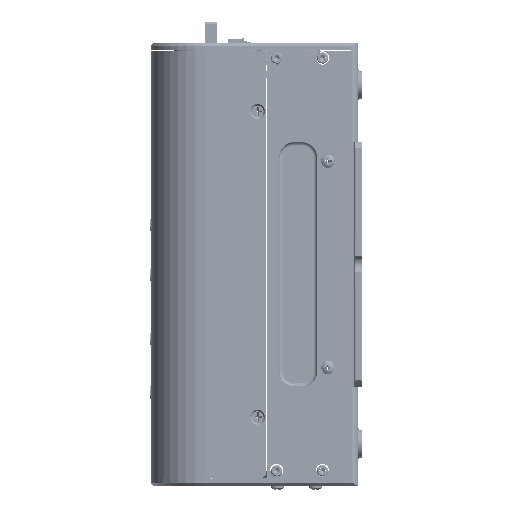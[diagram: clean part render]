
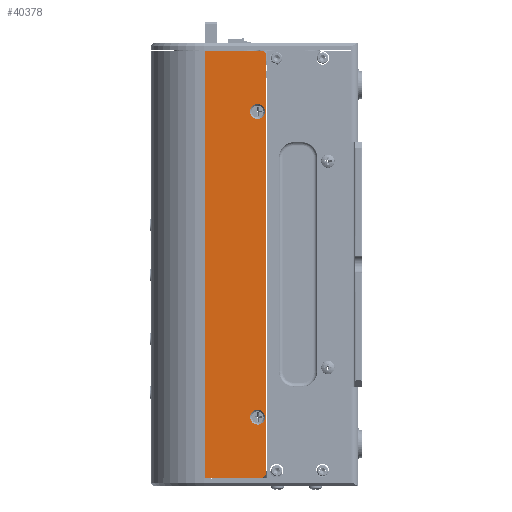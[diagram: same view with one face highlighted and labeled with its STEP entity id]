
A CAD part, left-side view. The second image highlights one B-rep face of the part: STEP entity #40378.
In plain terms, the highlighted planar face has unit normal (-1, 0, 0).
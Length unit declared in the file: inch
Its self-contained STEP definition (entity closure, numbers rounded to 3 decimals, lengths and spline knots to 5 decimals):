
#12307 = PLANE ( 'NONE',  #30489 ) ;
#12450 = DIRECTION ( 'NONE',  ( 0., 1., 0. ) ) ;
#12472 = DIRECTION ( 'NONE',  ( 1., 0., 0. ) ) ;
#12477 = CARTESIAN_POINT ( 'NONE',  ( -0.50197, 1.74975, -0.52091 ) ) ;
#30489 = AXIS2_PLACEMENT_3D ( 'NONE', #12477, #12472, #12450 ) ;
#40378 = ADVANCED_FACE ( 'NONE', ( #107128, #107139, #107131 ), #12307, .F. ) ;
#51132 = CIRCLE ( 'NONE', #207295, 0.12119 ) ;
#51230 = CIRCLE ( 'NONE', #207273, 0.12119 ) ;
#51333 = CIRCLE ( 'NONE', #207271, 0.12119 ) ;
#51415 = LINE ( 'NONE', #81190, #51419 ) ;
#51419 = VECTOR ( 'NONE', #81204, 39.37008 ) ;
#51496 = CIRCLE ( 'NONE', #207210, 0.12119 ) ;
#51513 = LINE ( 'NONE', #81620, #51542 ) ;
#51533 = LINE ( 'NONE', #81603, #51536 ) ;
#51536 = VECTOR ( 'NONE', #81615, 39.37008 ) ;
#51542 = VECTOR ( 'NONE', #81627, 39.37008 ) ;
#51566 = LINE ( 'NONE', #81675, #51569 ) ;
#51569 = VECTOR ( 'NONE', #81700, 39.37008 ) ;
#51576 = LINE ( 'NONE', #81679, #51579 ) ;
#51579 = VECTOR ( 'NONE', #81704, 39.37008 ) ;
#55905 = EDGE_CURVE ( 'NONE', #252614, #252604, #51132, .T. ) ;
#55968 = EDGE_CURVE ( 'NONE', #252892, #252896, #51230, .T. ) ;
#56013 = EDGE_CURVE ( 'NONE', #252896, #252892, #51333, .T. ) ;
#56066 = EDGE_CURVE ( 'NONE', #219318, #219327, #51415, .T. ) ;
#56156 = EDGE_CURVE ( 'NONE', #252604, #252614, #51496, .T. ) ;
#56164 = EDGE_CURVE ( 'NONE', #252833, #219318, #51533, .T. ) ;
#56168 = EDGE_CURVE ( 'NONE', #252841, #251092, #51513, .T. ) ;
#56195 = EDGE_CURVE ( 'NONE', #252833, #251092, #51566, .T. ) ;
#56201 = EDGE_CURVE ( 'NONE', #219327, #219322, #51576, .T. ) ;
#70827 = CARTESIAN_POINT ( 'NONE',  ( -0.50197, -0.08325, 2.96909 ) ) ;
#70830 = DIRECTION ( 'NONE',  ( 0., 0.707, 0.707 ) ) ;
#80461 = CARTESIAN_POINT ( 'NONE',  ( -0.50197, 0.00725, 1.97909 ) ) ;
#80463 = DIRECTION ( 'NONE',  ( -1., 0., 0. ) ) ;
#80466 = DIRECTION ( 'NONE',  ( 0., 0., 1. ) ) ;
#80777 = CARTESIAN_POINT ( 'NONE',  ( -0.50197, 0.00725, -3.02091 ) ) ;
#80782 = DIRECTION ( 'NONE',  ( -1., 0., 0. ) ) ;
#80787 = DIRECTION ( 'NONE',  ( 0., 0., 1. ) ) ;
#80958 = CARTESIAN_POINT ( 'NONE',  ( -0.50197, 0.00725, -3.02091 ) ) ;
#80962 = DIRECTION ( 'NONE',  ( -1., 0., 0. ) ) ;
#80964 = DIRECTION ( 'NONE',  ( 0., 0., 1. ) ) ;
#81190 = CARTESIAN_POINT ( 'NONE',  ( -0.50197, 0.87475, 2.96909 ) ) ;
#81204 = DIRECTION ( 'NONE',  ( 0., 0., 1. ) ) ;
#81593 = CARTESIAN_POINT ( 'NONE',  ( -0.50197, 0.00725, 1.97909 ) ) ;
#81595 = DIRECTION ( 'NONE',  ( -1., 0., 0. ) ) ;
#81598 = DIRECTION ( 'NONE',  ( 0., 0., 1. ) ) ;
#81603 = CARTESIAN_POINT ( 'NONE',  ( -0.50197, -0.13325, -4.01091 ) ) ;
#81615 = DIRECTION ( 'NONE',  ( 0., 1., 0. ) ) ;
#81620 = CARTESIAN_POINT ( 'NONE',  ( -0.50197, -0.13325, 2.96909 ) ) ;
#81627 = DIRECTION ( 'NONE',  ( 0., 0., -1. ) ) ;
#81675 = CARTESIAN_POINT ( 'NONE',  ( -0.50197, -0.13325, -3.96091 ) ) ;
#81679 = CARTESIAN_POINT ( 'NONE',  ( -0.50197, 1.68725, 2.96909 ) ) ;
#81700 = DIRECTION ( 'NONE',  ( 0., -0.707, 0.707 ) ) ;
#81704 = DIRECTION ( 'NONE',  ( 0., -1., 0. ) ) ;
#93343 = ORIENTED_EDGE ( 'NONE', *, *, #56168, .F. ) ;
#93370 = ORIENTED_EDGE ( 'NONE', *, *, #56013, .F. ) ;
#93374 = ORIENTED_EDGE ( 'NONE', *, *, #56201, .F. ) ;
#93537 = ORIENTED_EDGE ( 'NONE', *, *, #56156, .F. ) ;
#93779 = ORIENTED_EDGE ( 'NONE', *, *, #55968, .F. ) ;
#93921 = ORIENTED_EDGE ( 'NONE', *, *, #56164, .F. ) ;
#94047 = ORIENTED_EDGE ( 'NONE', *, *, #56066, .F. ) ;
#94455 = ORIENTED_EDGE ( 'NONE', *, *, #255835, .T. ) ;
#94558 = ORIENTED_EDGE ( 'NONE', *, *, #56195, .T. ) ;
#94867 = ORIENTED_EDGE ( 'NONE', *, *, #55905, .F. ) ;
#99089 = LINE ( 'NONE', #70827, #99092 ) ;
#99092 = VECTOR ( 'NONE', #70830, 39.37008 ) ;
#107128 = FACE_BOUND ( 'NONE', #178464, .T. ) ;
#107131 = FACE_BOUND ( 'NONE', #178503, .T. ) ;
#107139 = FACE_OUTER_BOUND ( 'NONE', #178502, .T. ) ;
#126293 = CARTESIAN_POINT ( 'NONE',  ( -0.50197, 0.87475, -4.01091 ) ) ;
#126300 = CARTESIAN_POINT ( 'NONE',  ( -0.50197, -0.08325, 2.96909 ) ) ;
#126303 = CARTESIAN_POINT ( 'NONE',  ( -0.50197, 0.87475, 2.96909 ) ) ;
#137142 = CARTESIAN_POINT ( 'NONE',  ( -0.50197, -0.13325, -3.96091 ) ) ;
#137635 = CARTESIAN_POINT ( 'NONE',  ( -0.50197, 0.00725, 2.10029 ) ) ;
#137637 = CARTESIAN_POINT ( 'NONE',  ( -0.50197, 0.00725, 1.8579 ) ) ;
#137676 = CARTESIAN_POINT ( 'NONE',  ( -0.50197, -0.08325, -4.01091 ) ) ;
#137677 = CARTESIAN_POINT ( 'NONE',  ( -0.50197, -0.13325, 2.91909 ) ) ;
#137685 = CARTESIAN_POINT ( 'NONE',  ( -0.50197, 0.00725, -3.1421 ) ) ;
#137687 = CARTESIAN_POINT ( 'NONE',  ( -0.50197, 0.00725, -2.89971 ) ) ;
#178464 = EDGE_LOOP ( 'NONE', ( #93537, #94867 ) ) ;
#178502 = EDGE_LOOP ( 'NONE', ( #93343, #94455, #93374, #94047, #93921, #94558 ) ) ;
#178503 = EDGE_LOOP ( 'NONE', ( #93370, #93779 ) ) ;
#207210 = AXIS2_PLACEMENT_3D ( 'NONE', #81593, #81595, #81598 ) ;
#207271 = AXIS2_PLACEMENT_3D ( 'NONE', #80958, #80962, #80964 ) ;
#207273 = AXIS2_PLACEMENT_3D ( 'NONE', #80777, #80782, #80787 ) ;
#207295 = AXIS2_PLACEMENT_3D ( 'NONE', #80461, #80463, #80466 ) ;
#219318 = VERTEX_POINT ( 'NONE', #126293 ) ;
#219322 = VERTEX_POINT ( 'NONE', #126300 ) ;
#219327 = VERTEX_POINT ( 'NONE', #126303 ) ;
#251092 = VERTEX_POINT ( 'NONE', #137142 ) ;
#252604 = VERTEX_POINT ( 'NONE', #137635 ) ;
#252614 = VERTEX_POINT ( 'NONE', #137637 ) ;
#252833 = VERTEX_POINT ( 'NONE', #137676 ) ;
#252841 = VERTEX_POINT ( 'NONE', #137677 ) ;
#252892 = VERTEX_POINT ( 'NONE', #137685 ) ;
#252896 = VERTEX_POINT ( 'NONE', #137687 ) ;
#255835 = EDGE_CURVE ( 'NONE', #252841, #219322, #99089, .T. ) ;
